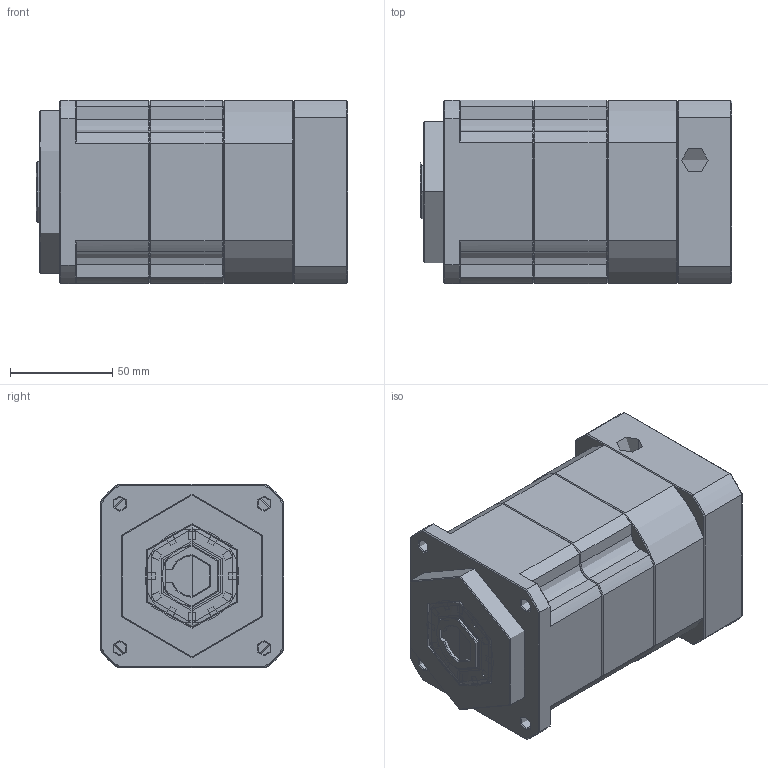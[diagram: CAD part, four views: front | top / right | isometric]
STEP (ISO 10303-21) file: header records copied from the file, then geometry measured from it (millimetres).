
FILE_DESCRIPTION (( 'STEP AP214' ), '1' );
FILE_NAME ('ZPB090-K20-L2-P1-19-70-90-M6.step', '2024-06-07T18:26:12', ( 'Windows 蚚誧' ), ( 'Organization' ), 'SwSTEP 2.0', 'SolidWorks 2016', '' );
FILE_SCHEMA (( 'AUTOMOTIVE_DESIGN' ));
Length unit declared in the file: millimetre
Products named in the file (1): ZPB090-K20-L2-P1-19-70-90-M6
Bounding box: 152.5 x 90 x 90 mm (x, y, z)
Topology: 0 solids, 36 shells, 1864 faces, 4906 edges, 3109 vertices
Faces by surface type: plane 965, bspline 383, cone 285, cylinder 231
Entity records: 88173 total; most frequent: CARTESIAN_POINT 40477, ORIENTED_EDGE 9792, DIRECTION 7598, EDGE_CURVE 4907, VECTOR 3252, LINE 3252, VERTEX_POINT 3109, AXIS2_PLACEMENT_3D 2173
